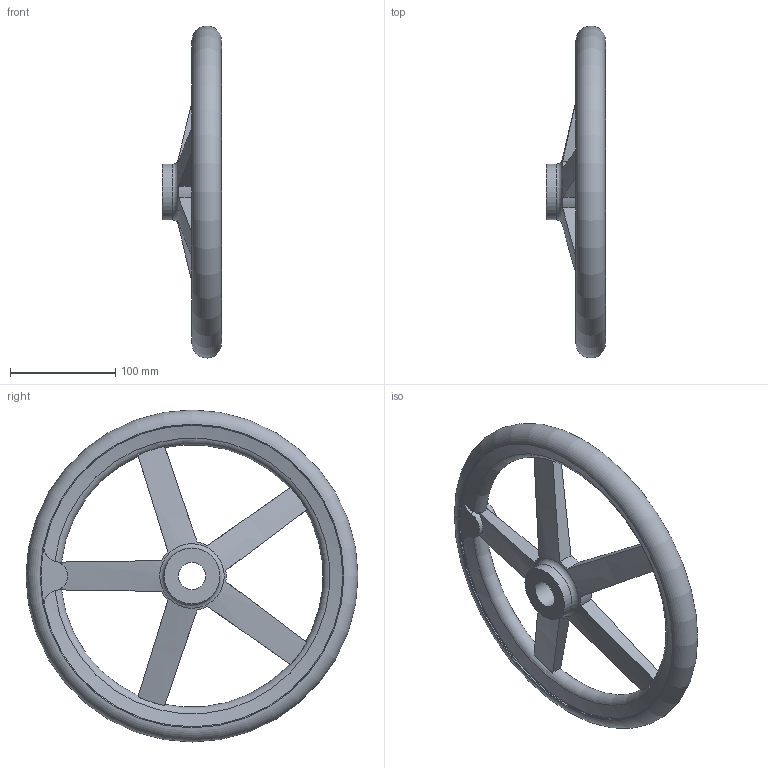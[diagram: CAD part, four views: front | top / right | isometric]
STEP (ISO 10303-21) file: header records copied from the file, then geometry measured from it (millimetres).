
FILE_DESCRIPTION( ( 'STEP AP203' ), '1' );
FILE_NAME( 'C:/Temp/Ganter_Step_05_03_2020/data/1_3/din_950/din_950_b/din_950_b_a/Handwheel DIN 950-AL-315-B26-A.stp', '2020-03-05T10:29:27', ( 'License CC BY-ND 4.0' ), ( 'CADENAS' ), ' ', 'PARTsolutions', ' ' );
FILE_SCHEMA( ( 'CONFIG_CONTROL_DESIGN' ) );
Length unit declared in the file: millimetre
Products named in the file (1): _Handwheel DIN 950-AL-315-B26-A
Bounding box: 56 x 314.99 x 314.99 mm (x, y, z)
Volume: 811654.3 mm3; surface area: 136168.6 mm2
Topology: 1 solids, 1 shells, 54 faces, 164 edges, 106 vertices
Faces by surface type: torus 20, cylinder 16, plane 14, cone 4
Full cylindrical faces by diameter (mm): 26 x1, 53 x2, 287 x2
Entity records: 2363 total; most frequent: CARTESIAN_POINT 997, ORIENTED_EDGE 292, DIRECTION 244, EDGE_CURVE 146, AXIS2_PLACEMENT_3D 115, VERTEX_POINT 103, EDGE_LOOP 74, B_SPLINE_CURVE_WITH_KNOTS 72
